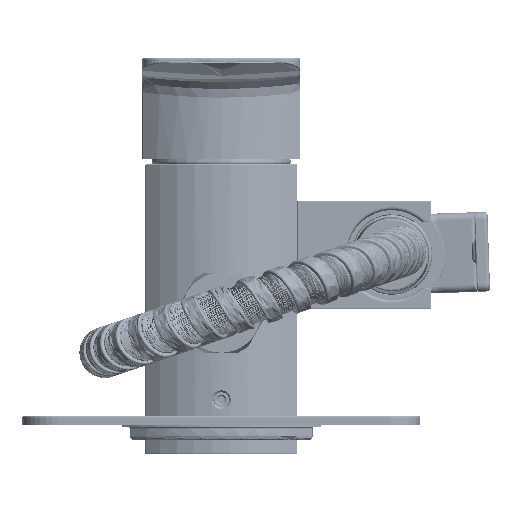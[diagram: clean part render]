
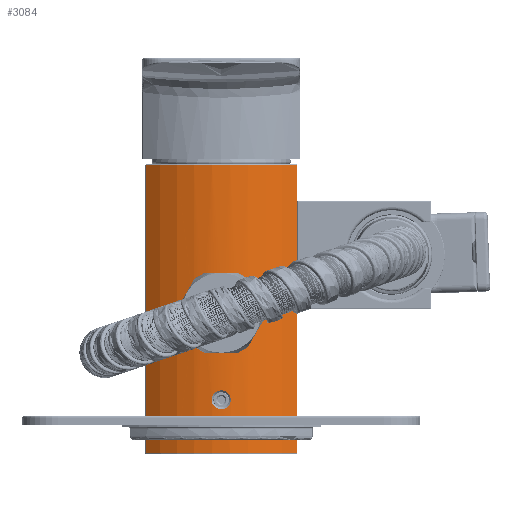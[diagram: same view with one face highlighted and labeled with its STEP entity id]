
A CAD part, front view. The second image highlights one B-rep face of the part: STEP entity #3084.
In plain terms, the highlighted cylindrical face has radius 31.562 mm (diameter 63.125 mm), a partial arc.
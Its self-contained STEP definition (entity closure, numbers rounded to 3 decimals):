
#88=CARTESIAN_POINT('',(0.,0.3,-7.063));
#89=DIRECTION('',(0.,1.,0.));
#90=DIRECTION('',(-0.66,0.,0.751));
#91=AXIS2_PLACEMENT_3D('',#88,#89,#90);
#242=DIRECTION('',(0.,1.,0.));
#243=VECTOR('',#242,79.4);
#244=CARTESIAN_POINT('',(-20.83,0.3,16.65));
#245=LINE('',#244,#243);
#246=CARTESIAN_POINT('',(0.,31.5,24.5));
#247=CARTESIAN_POINT('',(0.475,31.5,24.5));
#248=CARTESIAN_POINT('',(1.421,31.587,24.479));
#249=CARTESIAN_POINT('',(2.888,32.022,24.378));
#250=CARTESIAN_POINT('',(4.214,32.737,24.226));
#251=CARTESIAN_POINT('',(5.359,33.684,24.048));
#252=CARTESIAN_POINT('',(6.276,34.812,23.873));
#253=CARTESIAN_POINT('',(6.971,36.102,23.722));
#254=CARTESIAN_POINT('',(7.399,37.52,23.621));
#255=CARTESIAN_POINT('',(7.548,38.969,23.584));
#256=CARTESIAN_POINT('',(7.413,40.412,23.617));
#257=CARTESIAN_POINT('',(6.995,41.843,23.717));
#258=CARTESIAN_POINT('',(6.297,43.16,23.869));
#259=CARTESIAN_POINT('',(5.372,44.304,24.045));
#260=CARTESIAN_POINT('',(4.225,45.256,24.224));
#261=CARTESIAN_POINT('',(2.9,45.973,24.377));
#262=CARTESIAN_POINT('',(1.435,46.411,24.479));
#263=CARTESIAN_POINT('',(0.48,46.5,24.5));
#264=CARTESIAN_POINT('',(0.,46.5,24.5));
#266=CARTESIAN_POINT('',(0.,46.5,24.5));
#267=CARTESIAN_POINT('',(-0.475,46.5,24.5));
#268=CARTESIAN_POINT('',(-1.42,46.413,24.479));
#269=CARTESIAN_POINT('',(-2.887,45.979,24.378));
#270=CARTESIAN_POINT('',(-4.214,45.263,24.226));
#271=CARTESIAN_POINT('',(-5.36,44.315,24.047));
#272=CARTESIAN_POINT('',(-6.278,43.187,23.873));
#273=CARTESIAN_POINT('',(-6.975,41.89,23.722));
#274=CARTESIAN_POINT('',(-7.401,40.47,23.62));
#275=CARTESIAN_POINT('',(-7.548,39.032,23.584));
#276=CARTESIAN_POINT('',(-7.411,37.578,23.618));
#277=CARTESIAN_POINT('',(-6.991,36.147,23.718));
#278=CARTESIAN_POINT('',(-6.295,34.838,23.87));
#279=CARTESIAN_POINT('',(-5.37,33.694,24.046));
#280=CARTESIAN_POINT('',(-4.224,32.744,24.224));
#281=CARTESIAN_POINT('',(-2.901,32.027,24.377));
#282=CARTESIAN_POINT('',(-1.436,31.589,24.479));
#283=CARTESIAN_POINT('',(-0.481,31.5,24.5));
#284=CARTESIAN_POINT('',(0.,31.5,24.5));
#286=CARTESIAN_POINT('',(0.,12.4,24.5));
#287=CARTESIAN_POINT('',(0.233,12.4,24.5));
#288=CARTESIAN_POINT('',(0.685,12.458,24.495));
#289=CARTESIAN_POINT('',(1.348,12.727,24.473));
#290=CARTESIAN_POINT('',(1.904,13.155,24.444));
#291=CARTESIAN_POINT('',(2.32,13.695,24.415));
#292=CARTESIAN_POINT('',(2.584,14.331,24.394));
#293=CARTESIAN_POINT('',(2.671,15.003,24.387));
#294=CARTESIAN_POINT('',(2.583,15.672,24.394));
#295=CARTESIAN_POINT('',(2.322,16.301,24.415));
#296=CARTESIAN_POINT('',(1.906,16.842,24.444));
#297=CARTESIAN_POINT('',(1.355,17.268,24.473));
#298=CARTESIAN_POINT('',(0.696,17.539,24.495));
#299=CARTESIAN_POINT('',(0.238,17.6,24.5));
#300=CARTESIAN_POINT('',(0.,17.6,24.5));
#302=CARTESIAN_POINT('',(0.,17.6,24.5));
#303=CARTESIAN_POINT('',(-0.233,17.6,24.5));
#304=CARTESIAN_POINT('',(-0.685,17.542,24.495));
#305=CARTESIAN_POINT('',(-1.348,17.273,24.473));
#306=CARTESIAN_POINT('',(-1.904,16.845,24.444));
#307=CARTESIAN_POINT('',(-2.32,16.305,24.415));
#308=CARTESIAN_POINT('',(-2.584,15.669,24.394));
#309=CARTESIAN_POINT('',(-2.671,14.997,24.387));
#310=CARTESIAN_POINT('',(-2.583,14.328,24.394));
#311=CARTESIAN_POINT('',(-2.322,13.699,24.415));
#312=CARTESIAN_POINT('',(-1.906,13.158,24.444));
#313=CARTESIAN_POINT('',(-1.355,12.732,24.473));
#314=CARTESIAN_POINT('',(-0.696,12.461,24.495));
#315=CARTESIAN_POINT('',(-0.238,12.4,24.5));
#316=CARTESIAN_POINT('',(0.,12.4,24.5));
#318=CARTESIAN_POINT('',(0.,79.7,-7.063));
#319=DIRECTION('',(0.,-1.,0.));
#320=DIRECTION('',(0.66,0.,0.751));
#321=AXIS2_PLACEMENT_3D('',#318,#319,#320);
#380=DIRECTION('',(0.,1.,0.));
#381=VECTOR('',#380,79.4);
#382=CARTESIAN_POINT('',(20.83,0.3,16.65));
#383=LINE('',#382,#381);
#2282=CARTESIAN_POINT('',(20.83,0.3,16.65));
#2283=VERTEX_POINT('',#2282);
#2284=CARTESIAN_POINT('',(-20.83,0.3,
16.65));
#2285=VERTEX_POINT('',#2284);
#2661=VERTEX_POINT('',#286);
#2662=VERTEX_POINT('',#300);
#2663=CARTESIAN_POINT('',(20.83,79.7,16.65));
#2664=CARTESIAN_POINT('',(-20.83,79.7,16.65));
#2665=VERTEX_POINT('',#2663);
#2666=VERTEX_POINT('',#2664);
#2667=VERTEX_POINT('',#246);
#2668=VERTEX_POINT('',#264);
#3059=CARTESIAN_POINT('',(0.,80.,-7.063));
#3060=DIRECTION('',(0.,1.,0.));
#3061=DIRECTION('',(1.,0.,0.));
#3062=AXIS2_PLACEMENT_3D('',#3059,#3060,#3061);
#3063=CYLINDRICAL_SURFACE('',#3062,31.563);
#3065=ORIENTED_EDGE('',*,*,#3064,.F.);
#3067=ORIENTED_EDGE('',*,*,#3066,.F.);
#3068=ORIENTED_EDGE('',*,*,#2854,.F.);
#3069=ORIENTED_EDGE('',*,*,#3051,.T.);
#3070=EDGE_LOOP('',(#3065,#3067,#3068,#3069));
#3071=FACE_OUTER_BOUND('',#3070,.F.);
#3073=ORIENTED_EDGE('',*,*,#3072,.T.);
#3075=ORIENTED_EDGE('',*,*,#3074,.T.);
#3076=EDGE_LOOP('',(#3073,#3075));
#3077=FACE_BOUND('',#3076,.F.);
#3079=ORIENTED_EDGE('',*,*,#3078,.T.);
#3081=ORIENTED_EDGE('',*,*,#3080,.T.);
#3082=EDGE_LOOP('',(#3079,#3081));
#3083=FACE_BOUND('',#3082,.F.);
#92=CIRCLE('',#91,31.563);
#265=B_SPLINE_CURVE_WITH_KNOTS('',3,(#246,#247,#248,#249,#250,#251,#252,#253,
#254,#255,#256,#257,#258,#259,#260,#261,#262,#263,#264),.UNSPECIFIED.,.F.,.F.,
(4,1,1,1,1,1,1,1,1,1,1,1,1,1,1,1,4),(0.,0.063,0.125,0.188,0.25,
0.313,0.375,0.438,0.5,0.563,0.625,0.688,0.75,0.813,
0.875,0.938,1.),.UNSPECIFIED.);
#285=B_SPLINE_CURVE_WITH_KNOTS('',3,(#266,#267,#268,#269,#270,#271,#272,#273,
#274,#275,#276,#277,#278,#279,#280,#281,#282,#283,#284),.UNSPECIFIED.,.F.,.F.,
(4,1,1,1,1,1,1,1,1,1,1,1,1,1,1,1,4),(0.,0.063,0.125,0.188,0.25,
0.313,0.375,0.438,0.5,0.563,0.625,0.688,0.75,0.813,
0.875,0.938,1.),.UNSPECIFIED.);
#301=B_SPLINE_CURVE_WITH_KNOTS('',3,(#286,#287,#288,#289,#290,#291,#292,#293,
#294,#295,#296,#297,#298,#299,#300),.UNSPECIFIED.,.F.,.F.,(4,1,1,1,1,1,1,1,1,1,
1,1,4),(0.,0.083,0.167,0.25,0.333,
0.417,0.5,0.583,0.667,0.75,
0.833,0.917,1.),.UNSPECIFIED.);
#317=B_SPLINE_CURVE_WITH_KNOTS('',3,(#302,#303,#304,#305,#306,#307,#308,#309,
#310,#311,#312,#313,#314,#315,#316),.UNSPECIFIED.,.F.,.F.,(4,1,1,1,1,1,1,1,1,1,
1,1,4),(0.,0.083,0.167,0.25,0.333,
0.417,0.5,0.583,0.667,0.75,
0.833,0.917,1.),.UNSPECIFIED.);
#322=CIRCLE('',#321,31.563);
#2854=EDGE_CURVE('',#2285,#2283,#92,.T.);
#3051=EDGE_CURVE('',#2285,#2666,#245,.T.);
#3064=EDGE_CURVE('',#2665,#2666,#322,.T.);
#3066=EDGE_CURVE('',#2283,#2665,#383,.T.);
#3072=EDGE_CURVE('',#2667,#2668,#265,.T.);
#3074=EDGE_CURVE('',#2668,#2667,#285,.T.);
#3078=EDGE_CURVE('',#2661,#2662,#301,.T.);
#3080=EDGE_CURVE('',#2662,#2661,#317,.T.);
#3084=ADVANCED_FACE('',(#3071,#3077,#3083),#3063,.T.);
